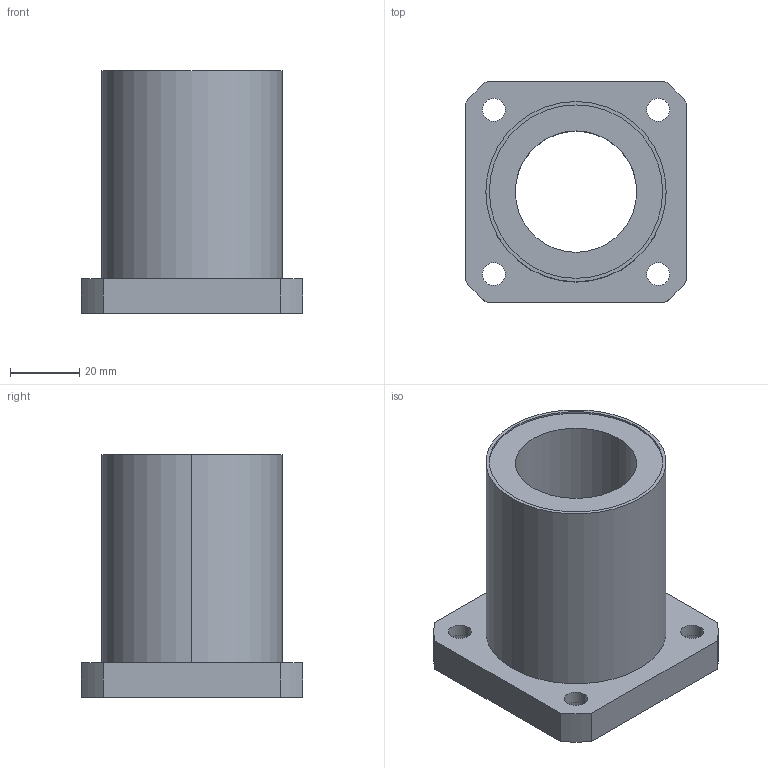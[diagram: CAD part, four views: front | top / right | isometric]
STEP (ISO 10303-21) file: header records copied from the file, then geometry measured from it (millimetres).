
FILE_DESCRIPTION((''),'2;1');
FILE_NAME('C:\Documents and Settings\ｿﾀﾀ蠑ｷ1\ｹﾙﾅﾁ ﾈｭｸ饅\ｺﾎﾇｰﾆﾄﾀﾏ\ﾁｦﾇｰ\LMK__UU\LMK35UU.stp','2005-06-15T09:49:25',('ｿﾀﾀ蠑ｷ1'),(''),'Autodesk Inventor 9','Autodesk Inventor 9','');
FILE_SCHEMA(('AUTOMOTIVE_DESIGN { 1 0 10303 214 1 1 1 1 }'));
Length unit declared in the file: millimetre
Products named in the file (1): LMK__
Bounding box: 64 x 64 x 70 mm (x, y, z)
Volume: 95751.7 mm3; surface area: 27016.6 mm2
Topology: 1 solids, 1 shells, 44 faces, 102 edges, 68 vertices
Faces by surface type: cylinder 30, plane 14
Entity records: 1329 total; most frequent: DIRECTION 252, CARTESIAN_POINT 215, ORIENTED_EDGE 204, AXIS2_PLACEMENT_3D 105, EDGE_CURVE 102, VERTEX_POINT 68, EDGE_LOOP 62, CIRCLE 60
